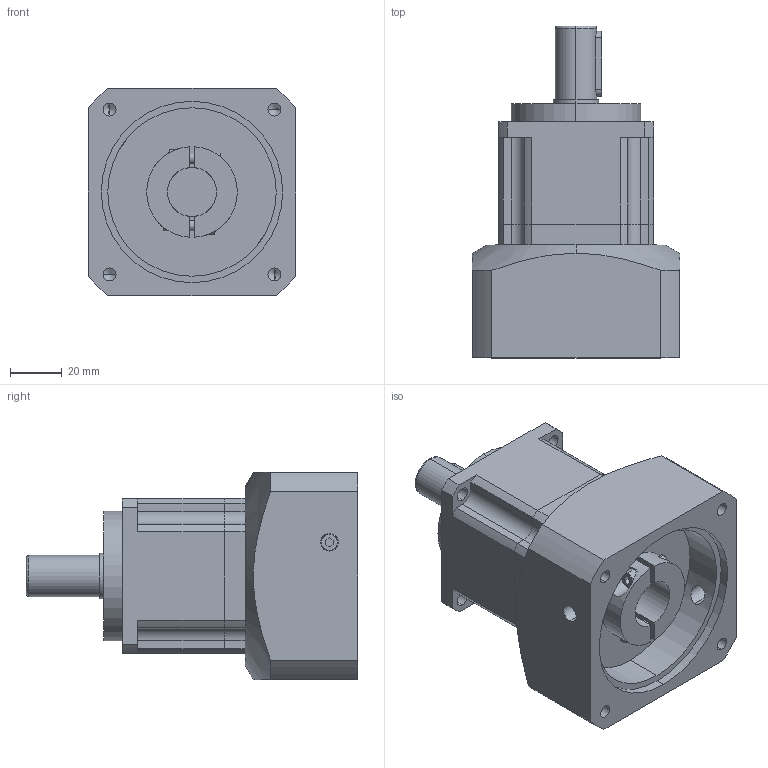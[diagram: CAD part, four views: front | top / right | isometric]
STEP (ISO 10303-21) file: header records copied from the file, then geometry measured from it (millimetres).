
FILE_DESCRIPTION (( 'STEP AP203' ), '1' );
FILE_NAME ('WAB060-L1(750W)俋倛芞(19-41-70-90-M6).STEP', '2019-08-08T00:36:45', ( 'Windows' ), ( 'Microsoft' ), 'SwSTEP 2.0', 'SolidWorks 2016', '' );
FILE_SCHEMA (( 'CONFIG_CONTROL_DESIGN' ));
Length unit declared in the file: millimetre
Products named in the file (1): WAB060-L1(750W)俋倛芞(19-41-70-90-M6)
Bounding box: 80 x 128 x 80 mm (x, y, z)
Volume: 373245 mm3; surface area: 56352.3 mm2
Topology: 3 solids, 3 shells, 197 faces, 487 edges, 307 vertices
Faces by surface type: cylinder 93, plane 86, cone 12, torus 6
Entity records: 6374 total; most frequent: CARTESIAN_POINT 1495, DIRECTION 1057, ORIENTED_EDGE 954, EDGE_CURVE 477, AXIS2_PLACEMENT_3D 401, VERTEX_POINT 307, LINE 255, VECTOR 255
